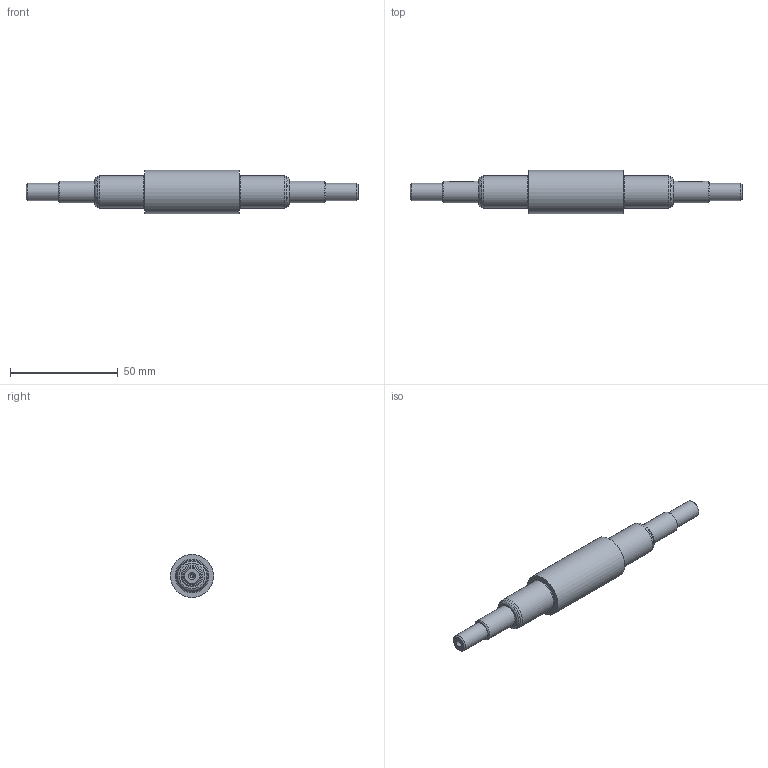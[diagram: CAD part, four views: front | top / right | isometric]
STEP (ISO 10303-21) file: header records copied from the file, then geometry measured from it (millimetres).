
FILE_DESCRIPTION(/* description */ (''),/* implementation_level */ '2;1');
FILE_NAME(/* name */ '',/* time_stamp */ '2025-10-01T16:41:02+09:00',/* author */ ('jhkim'),/* organization */ (''),/* preprocessor_version */ 'ST-DEVELOPER v20.1',/* originating_system */ 'Autodesk Inventor 2026',/* authorisation */ '');
FILE_SCHEMA (('AUTOMOTIVE_DESIGN { 1 0 10303 214 3 1 1 }'));
Length unit declared in the file: millimetre
Products named in the file (1): 축
Bounding box: 154 x 20 x 20 mm (x, y, z)
Volume: 25893.1 mm3; surface area: 7364.8 mm2
Topology: 1 solids, 1 shells, 43 faces, 99 edges, 66 vertices
Faces by surface type: plane 14, cylinder 13, cone 10, torus 6
Full cylindrical faces by diameter (mm): 1.6 x2, 8 x2, 10 x2, 15 x2, 20 x1
Entity records: 1336 total; most frequent: CARTESIAN_POINT 279, DIRECTION 231, ORIENTED_EDGE 194, AXIS2_PLACEMENT_3D 98, EDGE_CURVE 97, VERTEX_POINT 66, CIRCLE 54, EDGE_LOOP 53
